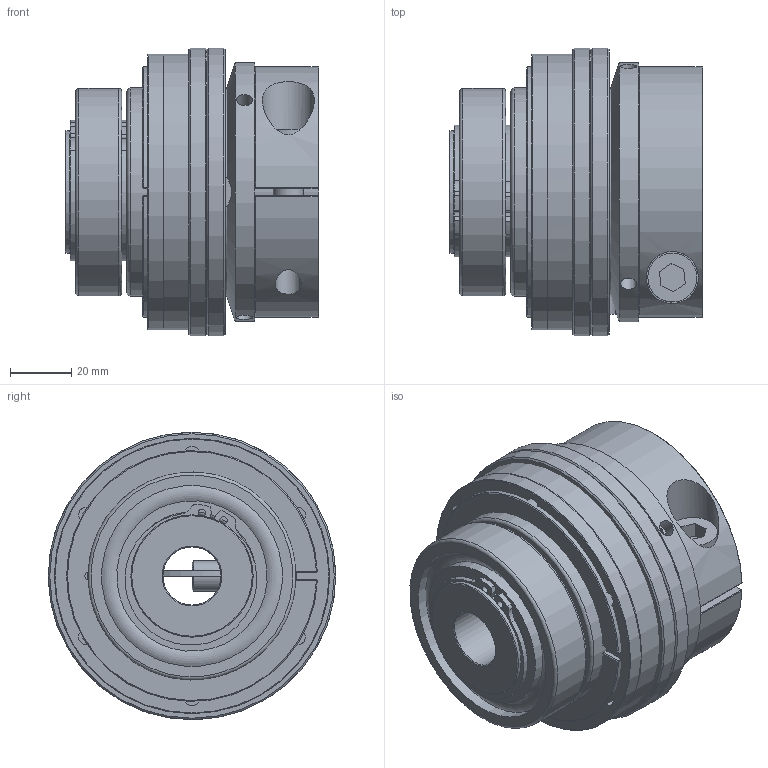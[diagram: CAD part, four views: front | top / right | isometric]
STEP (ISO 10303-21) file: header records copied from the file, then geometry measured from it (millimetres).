
FILE_DESCRIPTION( ( 'Unknown' ), '1' );
FILE_NAME( 'C:/Dokumente und Einstellungen/Sven/Desktop/hp kbk/KBK LL-K-150.stp', 'Unknown', ( 'Unknown' ), ( 'Unknown' ), 'XStep 1.0', 'Unknown', ' ' );
FILE_SCHEMA( ( 'automotive_design' ) );
Length unit declared in the file: millimetre
Products named in the file (13): Assem1; Assem2; Assem3; ball_bearing_-_6008_0_01; ball_bearing_-_6008_0_02; ball_bearing_-_6008_0_03; Zylinderschraube DIN 912_1; Stellring 80; Druckring 80; a_40; Klemmnabe 80; KBK LL-K-80 Grundkörper; Flansch 80
Bounding box: 83 x 94 x 94 mm (x, y, z)
Volume: 701453.7 mm3; surface area: 247032.2 mm2
Topology: 28 solids, 28 shells, 383 faces, 826 edges, 537 vertices
Faces by surface type: plane 152, cylinder 140, cone 59, torus 32
Full cylindrical faces by diameter (mm): 2.5 x6, 3.242 x6, 4.917 x12, 5 x8, 5.2 x6, 8.376 x2, 10 x3, 10.5 x2, 16 x3, 17 x2, 19 x2, 37.5 x4, 40 x10, 42 x2, 49.2 x8, 59.1 x8, 61 x2, 62 x4, 68 x6, 70 x2, 85 x2, 87 x2, 90 x4, 94 x2
Entity records: 4644 total; most frequent: CARTESIAN_POINT 1175, DIRECTION 704, ORIENTED_EDGE 480, AXIS2_PLACEMENT_3D 317, EDGE_LOOP 286, EDGE_CURVE 240, FACE_OUTER_BOUND 213, VERTEX_POINT 200
